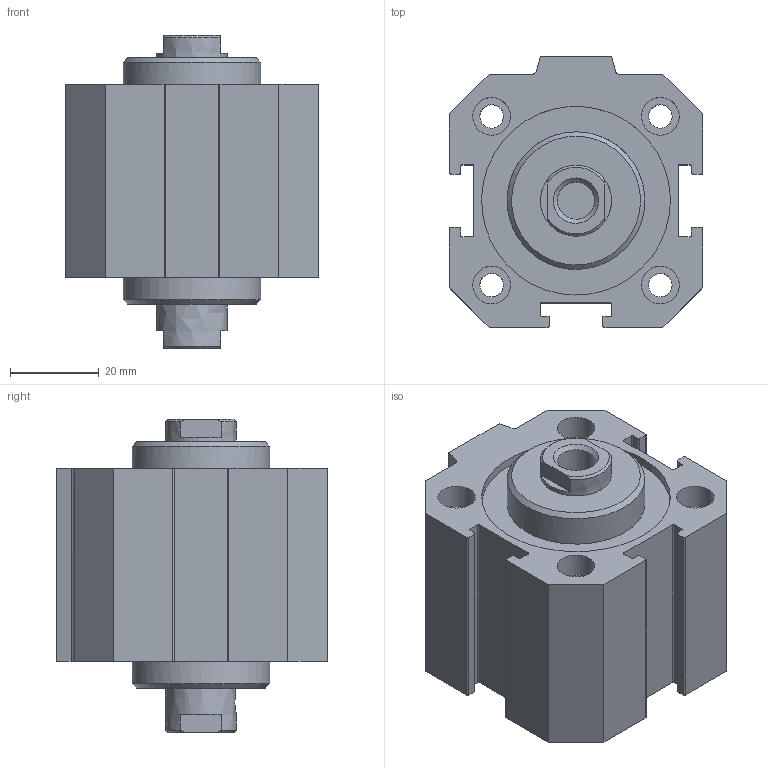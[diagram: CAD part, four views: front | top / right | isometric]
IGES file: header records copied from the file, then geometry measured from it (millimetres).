
Global section: file name: 1514_40_0005; native system: Autodesk Inventor 2014; preprocessor: unknown; author: A. Manieri; date: 20160824.120153; units: millimetre
Bounding box: 57 x 61 x 70.5 mm (x, y, z)
Volume: 122890.4 mm3; surface area: 37067.2 mm2
Topology: 2 solids, 2 shells, 130 faces, 339 edges, 233 vertices
Faces by surface type: bspline 130
